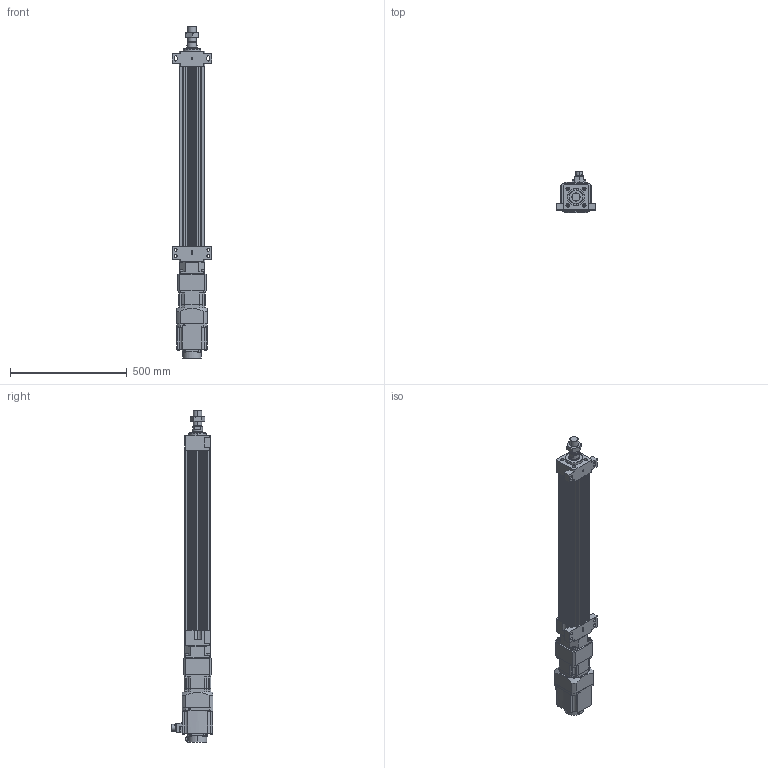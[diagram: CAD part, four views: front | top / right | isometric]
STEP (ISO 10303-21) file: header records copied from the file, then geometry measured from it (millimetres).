
FILE_DESCRIPTION (( 'STEP AP203' ), '1' );
FILE_NAME ('HES110NS(HS)-S600-W015G00-M-FFB.STEP', '2023-01-27T12:18:02', ( 'tms' ), ( '' ), 'SwSTEP 2.0', 'SolidWorks 2013', '' );
FILE_SCHEMA (( 'CONFIG_CONTROL_DESIGN' ));
Length unit declared in the file: millimetre
Products named in the file (8): P0401400706; HES110 ROD M ST600; AB1151; M36X1.5P; AB115-003[HG-SR152]; HES110NS(HS)-S600-W015G00-M-FFB; HG-SR152; HES110-S600-G120-FFB
Assembly tree (7 placements, depth 3):
  HES110NS(HS)-S600-W015G00-M-FFB
    HES110-S600-G120-FFB
    HES110 ROD M ST600
    M36X1.5P
    AB115-003[HG-SR152]
      AB1151
      P0401400706
    HG-SR152
Bounding box: 170 x 177.49 x 1421.5 mm (x, y, z)
Volume: 9153326.5 mm3; surface area: 1302321.6 mm2
Topology: 4 solids, 15 shells, 1194 faces, 3023 edges, 1968 vertices
Faces by surface type: plane 571, cylinder 531, cone 80, bspline 8, torus 4
Entity records: 37745 total; most frequent: CARTESIAN_POINT 7162, DIRECTION 6520, ORIENTED_EDGE 5998, EDGE_CURVE 3009, AXIS2_PLACEMENT_3D 2386, VERTEX_POINT 1968, VECTOR 1748, LINE 1748
